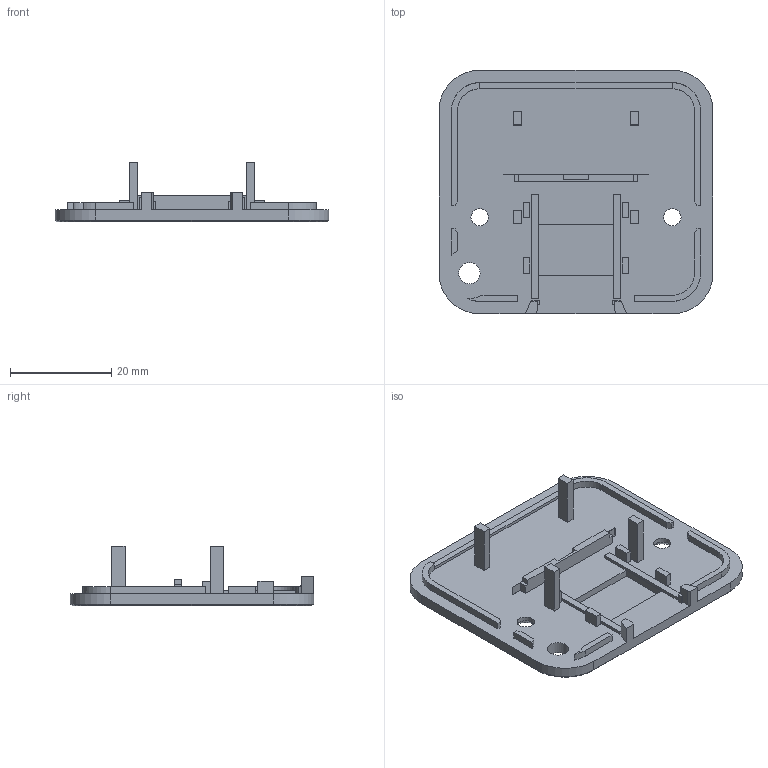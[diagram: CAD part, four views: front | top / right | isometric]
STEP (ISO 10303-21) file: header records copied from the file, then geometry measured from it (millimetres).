
FILE_DESCRIPTION(('Open CASCADE Model'),'2;1');
FILE_NAME('Open CASCADE Shape Model','2026-10-06T21:18:30',('Author'),( 'Open CASCADE'),'Open CASCADE STEP processor 7.9','Open CASCADE 7.9' ,'Unknown');
FILE_SCHEMA(('AUTOMOTIVE_DESIGN { 1 0 10303 214 1 1 1 1 }'));
Length unit declared in the file: millimetre
Products named in the file (1): Open CASCADE STEP translator 7.9 2
Bounding box: 54 x 48 x 11.8 mm (x, y, z)
Volume: 6285.2 mm3; surface area: 6561.1 mm2
Topology: 1 solids, 1 shells, 160 faces, 418 edges, 274 vertices
Faces by surface type: plane 134, cylinder 20, cone 6
Full cylindrical faces by diameter (mm): 3.4 x2, 4.2 x1
Entity records: 10167 total; most frequent: CARTESIAN_POINT 2016, DIRECTION 1409, LINE 965, VECTOR 965, ORIENTED_EDGE 836, PCURVE 836, DEFINITIONAL_REPRESENTATION 836, EDGE_CURVE 418
